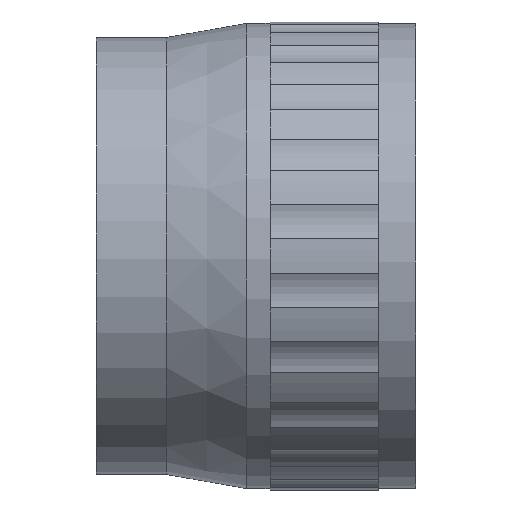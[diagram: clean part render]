
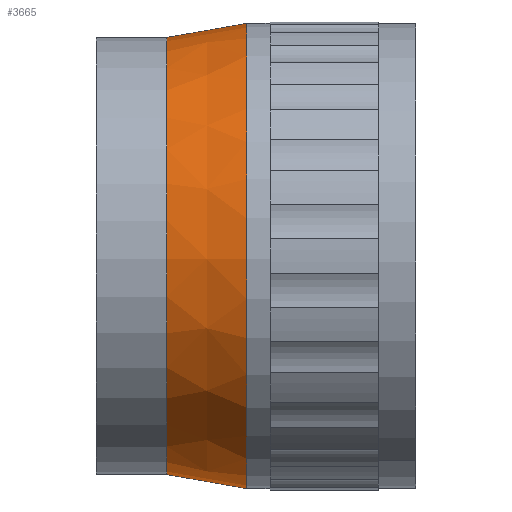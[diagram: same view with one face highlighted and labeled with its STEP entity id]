
A CAD part, front view. The second image highlights one B-rep face of the part: STEP entity #3665.
In plain terms, the highlighted conical face has half-angle 10.008 degrees and reference radius 46.5 mm.
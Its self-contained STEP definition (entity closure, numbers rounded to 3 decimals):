
#66 = CARTESIAN_POINT ( 'NONE',  ( -27.078, 0., -46.5 ) ) ;
#138 = VERTEX_POINT ( 'NONE', #2202 ) ;
#239 = CARTESIAN_POINT ( 'NONE',  ( -27.078, 0., 46.5 ) ) ;
#258 = DIRECTION ( 'NONE',  ( 1., 0., 0. ) ) ;
#842 = FACE_OUTER_BOUND ( 'NONE', #4336, .T. ) ;
#898 = EDGE_CURVE ( 'NONE', #7600, #138, #5347, .T. ) ;
#1069 = DIRECTION ( 'NONE',  ( -0.985, 0., -0.174 ) ) ;
#1210 = LINE ( 'NONE', #2887, #7747 ) ;
#1524 = CARTESIAN_POINT ( 'NONE',  ( -27.078, 0., 0. ) ) ;
#1553 = DIRECTION ( 'NONE',  ( 0., 0., -1. ) ) ;
#1608 = VECTOR ( 'NONE', #1069, 1000. ) ;
#2013 = ORIENTED_EDGE ( 'NONE', *, *, #898, .F. ) ;
#2142 = CARTESIAN_POINT ( 'NONE',  ( -27.078, 0., 0. ) ) ;
#2202 = CARTESIAN_POINT ( 'NONE',  ( -44.078, 0., -49.5 ) ) ;
#2701 = DIRECTION ( 'NONE',  ( -1., 0., 0. ) ) ;
#2779 = CARTESIAN_POINT ( 'NONE',  ( -44.078, 0., 0. ) ) ;
#2887 = CARTESIAN_POINT ( 'NONE',  ( -27.078, 0., 46.5 ) ) ;
#3040 = CONICAL_SURFACE ( 'NONE', #6741, 46.5, 0.175 ) ;
#3242 = ORIENTED_EDGE ( 'NONE', *, *, #3772, .T. ) ;
#3347 = CIRCLE ( 'NONE', #4373, 46.5 ) ;
#3621 = CIRCLE ( 'NONE', #7566, 49.5 ) ;
#3665 = ADVANCED_FACE ( 'NONE', ( #842 ), #3040, .T. ) ;
#3679 = ORIENTED_EDGE ( 'NONE', *, *, #7132, .F. ) ;
#3772 = EDGE_CURVE ( 'NONE', #5888, #138, #3621, .T. ) ;
#3922 = EDGE_CURVE ( 'NONE', #6644, #5888, #1210, .T. ) ;
#4336 = EDGE_LOOP ( 'NONE', ( #2013, #3679, #6429, #3242 ) ) ;
#4373 = AXIS2_PLACEMENT_3D ( 'NONE', #2142, #5815, #6866 ) ;
#5347 = LINE ( 'NONE', #7188, #1608 ) ;
#5466 = CARTESIAN_POINT ( 'NONE',  ( -44.078, 0., 49.5 ) ) ;
#5815 = DIRECTION ( 'NONE',  ( 1., 0., 0. ) ) ;
#5888 = VERTEX_POINT ( 'NONE', #5466 ) ;
#6378 = DIRECTION ( 'NONE',  ( 0., 0., 1. ) ) ;
#6429 = ORIENTED_EDGE ( 'NONE', *, *, #3922, .T. ) ;
#6644 = VERTEX_POINT ( 'NONE', #239 ) ;
#6741 = AXIS2_PLACEMENT_3D ( 'NONE', #1524, #2701, #6378 ) ;
#6866 = DIRECTION ( 'NONE',  ( 0., 0., -1. ) ) ;
#7132 = EDGE_CURVE ( 'NONE', #6644, #7600, #3347, .T. ) ;
#7188 = CARTESIAN_POINT ( 'NONE',  ( -27.078, 0., -46.5 ) ) ;
#7194 = DIRECTION ( 'NONE',  ( -0.985, 0., 0.174 ) ) ;
#7566 = AXIS2_PLACEMENT_3D ( 'NONE', #2779, #258, #1553 ) ;
#7600 = VERTEX_POINT ( 'NONE', #66 ) ;
#7747 = VECTOR ( 'NONE', #7194, 1000. ) ;
